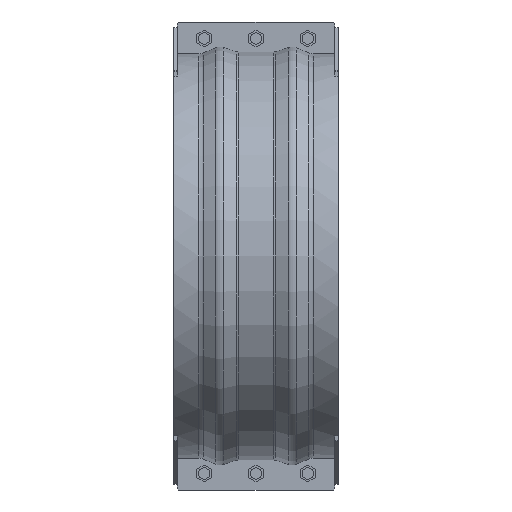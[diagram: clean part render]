
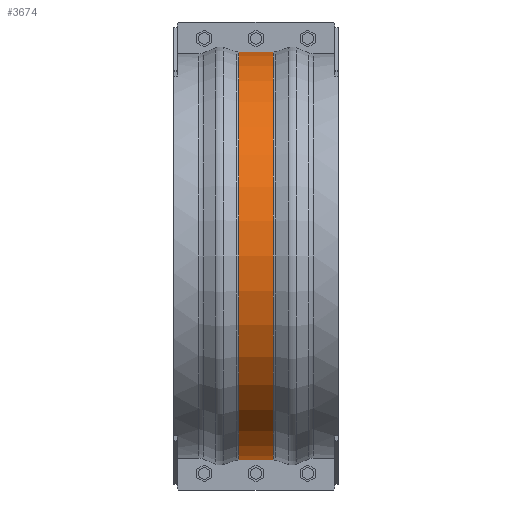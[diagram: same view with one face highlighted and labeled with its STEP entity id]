
A CAD part, front view. The second image highlights one B-rep face of the part: STEP entity #3674.
In plain terms, the highlighted cylindrical face has radius 394.002 mm (diameter 788.004 mm), a partial arc.
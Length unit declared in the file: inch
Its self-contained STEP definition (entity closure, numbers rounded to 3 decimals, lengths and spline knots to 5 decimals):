
#261=LINE('',#5678,#613);
#263=LINE('',#5822,#615);
#613=VECTOR('',#4542,2.62902);
#615=VECTOR('',#4596,2.62902);
#1084=FACE_OUTER_BOUND('',#1317,.T.);
#1317=EDGE_LOOP('',(#2884,#2885,#2886,#2887));
#1512=CIRCLE('',#3936,15.51189);
#1514=CIRCLE('',#3940,15.51189);
#1739=VERTEX_POINT('',#5670);
#1740=VERTEX_POINT('',#5677);
#1755=VERTEX_POINT('',#5807);
#1757=VERTEX_POINT('',#5820);
#2150=EDGE_CURVE('',#1740,#1739,#261,.T.);
#2175=EDGE_CURVE('',#1755,#1740,#1512,.T.);
#2179=EDGE_CURVE('',#1757,#1739,#1514,.T.);
#2180=EDGE_CURVE('',#1757,#1755,#263,.T.);
#2884=ORIENTED_EDGE('',*,*,#2150,.T.);
#2885=ORIENTED_EDGE('',*,*,#2179,.F.);
#2886=ORIENTED_EDGE('',*,*,#2180,.T.);
#2887=ORIENTED_EDGE('',*,*,#2175,.T.);
#3442=CYLINDRICAL_SURFACE('',#3939,15.51189);
#3674=ADVANCED_FACE('',(#1084),#3442,.T.);
#3936=AXIS2_PLACEMENT_3D('',#5808,#4585,#4586);
#3939=AXIS2_PLACEMENT_3D('',#5819,#4592,#4593);
#3940=AXIS2_PLACEMENT_3D('',#5821,#4594,#4595);
#4542=DIRECTION('',(1.,0.,0.));
#4585=DIRECTION('center_axis',(1.,0.,0.));
#4586=DIRECTION('ref_axis',(0.,0.,-1.));
#4592=DIRECTION('center_axis',(1.,0.,0.));
#4593=DIRECTION('ref_axis',(0.,1.,0.));
#4594=DIRECTION('center_axis',(1.,0.,0.));
#4595=DIRECTION('ref_axis',(0.,0.,-1.));
#4596=DIRECTION('',(-1.,0.,0.));
#5670=CARTESIAN_POINT('',(1.31451,-0.375,-15.50735));
#5677=CARTESIAN_POINT('',(-1.31451,-0.375,-15.50735));
#5678=CARTESIAN_POINT('',(0.,-0.375,-15.50735));
#5807=CARTESIAN_POINT('',(-1.31451,-0.375,15.50735));
#5808=CARTESIAN_POINT('Origin',(-1.31451,0.,
0.));
#5819=CARTESIAN_POINT('Origin',(0.,0.,0.));
#5820=CARTESIAN_POINT('',(1.31451,-0.375,15.50735));
#5821=CARTESIAN_POINT('Origin',(1.31451,0.,0.));
#5822=CARTESIAN_POINT('',(0.,-0.375,15.50735));
